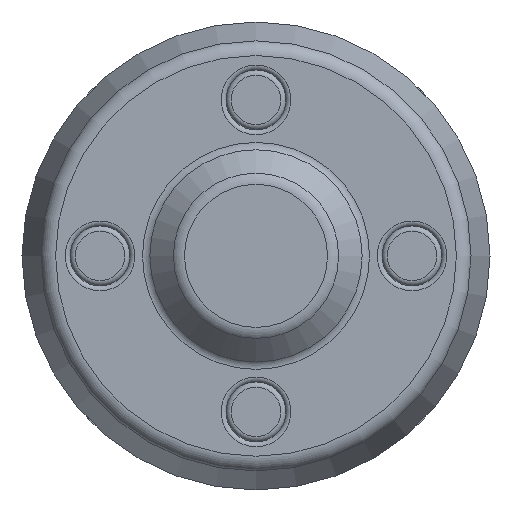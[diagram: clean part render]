
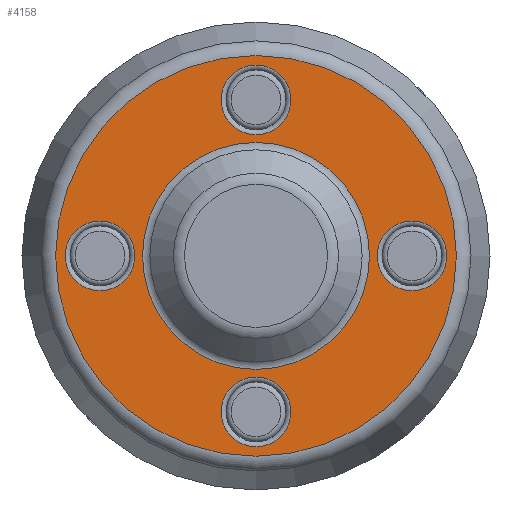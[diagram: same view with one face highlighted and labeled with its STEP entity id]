
A CAD part, top view. The second image highlights one B-rep face of the part: STEP entity #4158.
In plain terms, the highlighted planar face has unit normal (0, 0, 1).
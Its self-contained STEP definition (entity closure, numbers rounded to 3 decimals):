
#4158=ADVANCED_FACE('',(#10837,#10839,#10841,#10843,#10845,#10847),#10849,.T.);
#10837=FACE_BOUND('',#10838,.T.);
#10838=EDGE_LOOP('',(#56210));
#10839=FACE_BOUND('',#10840,.T.);
#10840=EDGE_LOOP('',(#56211));
#10841=FACE_BOUND('',#10842,.T.);
#10842=EDGE_LOOP('',(#56212));
#10843=FACE_BOUND('',#10844,.T.);
#10844=EDGE_LOOP('',(#56213));
#10845=FACE_BOUND('',#10846,.T.);
#10846=EDGE_LOOP('',(#56214));
#10847=FACE_BOUND('',#10848,.T.);
#10848=EDGE_LOOP('',(#56215));
#10849=PLANE('',#10850);
#10850=AXIS2_PLACEMENT_3D('',#10851,#10852,#10853);
#10851=CARTESIAN_POINT('',(0.,0.,-12.));
#10852=DIRECTION('',(0.,0.,1.));
#10853=DIRECTION('',(-1.,0.,0.));
#56210=ORIENTED_EDGE('',*,*,#60012,.F.);
#56211=ORIENTED_EDGE('',*,*,#60013,.F.);
#56212=ORIENTED_EDGE('',*,*,#60014,.F.);
#56213=ORIENTED_EDGE('',*,*,#60015,.T.);
#56214=ORIENTED_EDGE('',*,*,#60016,.F.);
#56215=ORIENTED_EDGE('',*,*,#60017,.F.);
#60012=EDGE_CURVE('',#63697,#63697,#63698,.T.);
#60013=EDGE_CURVE('',#63699,#63699,#63700,.F.);
#60014=EDGE_CURVE('',#63701,#63701,#63702,.F.);
#60015=EDGE_CURVE('',#63703,#63703,#63704,.T.);
#60016=EDGE_CURVE('',#63705,#63705,#63706,.F.);
#60017=EDGE_CURVE('',#63707,#63707,#63708,.F.);
#63697=VERTEX_POINT('',#85021);
#63698=CIRCLE('',#85022,77.063);
#63699=VERTEX_POINT('',#85026);
#63700=CIRCLE('',#85027,13.4);
#63701=VERTEX_POINT('',#85031);
#63702=CIRCLE('',#85032,13.4);
#63703=VERTEX_POINT('',#85036);
#63704=CIRCLE('',#85037,43.657);
#63705=VERTEX_POINT('',#85041);
#63706=CIRCLE('',#85042,13.4);
#63707=VERTEX_POINT('',#85046);
#63708=CIRCLE('',#85047,13.4);
#85021=CARTESIAN_POINT('',(-77.063,0.,-12.));
#85022=AXIS2_PLACEMENT_3D('',#85023,#85024,#85025);
#85023=CARTESIAN_POINT('',(0.,0.,-12.));
#85024=DIRECTION('',(0.,0.,-1.));
#85025=DIRECTION('',(-1.,0.,0.));
#85026=CARTESIAN_POINT('',(0.,73.4,-12.));
#85027=AXIS2_PLACEMENT_3D('',#85028,#85029,#85030);
#85028=CARTESIAN_POINT('',(0.,60.,-12.));
#85029=DIRECTION('',(0.,0.,-1.));
#85030=DIRECTION('',(0.,1.,0.));
#85031=CARTESIAN_POINT('',(0.,-73.4,-12.));
#85032=AXIS2_PLACEMENT_3D('',#85033,#85034,#85035);
#85033=CARTESIAN_POINT('',(0.,-60.,-12.));
#85034=DIRECTION('',(0.,0.,-1.));
#85035=DIRECTION('',(0.,-1.,0.));
#85036=CARTESIAN_POINT('',(-43.657,0.,-12.));
#85037=AXIS2_PLACEMENT_3D('',#85038,#85039,#85040);
#85038=CARTESIAN_POINT('',(0.,0.,-12.));
#85039=DIRECTION('',(0.,0.,-1.));
#85040=DIRECTION('',(-1.,0.,0.));
#85041=CARTESIAN_POINT('',(-73.4,0.,-12.));
#85042=AXIS2_PLACEMENT_3D('',#85043,#85044,#85045);
#85043=CARTESIAN_POINT('',(-60.,0.,-12.));
#85044=DIRECTION('',(0.,0.,-1.));
#85045=DIRECTION('',(-1.,0.,0.));
#85046=CARTESIAN_POINT('',(73.4,0.,-12.));
#85047=AXIS2_PLACEMENT_3D('',#85048,#85049,#85050);
#85048=CARTESIAN_POINT('',(60.,0.,-12.));
#85049=DIRECTION('',(0.,0.,-1.));
#85050=DIRECTION('',(1.,0.,0.));
